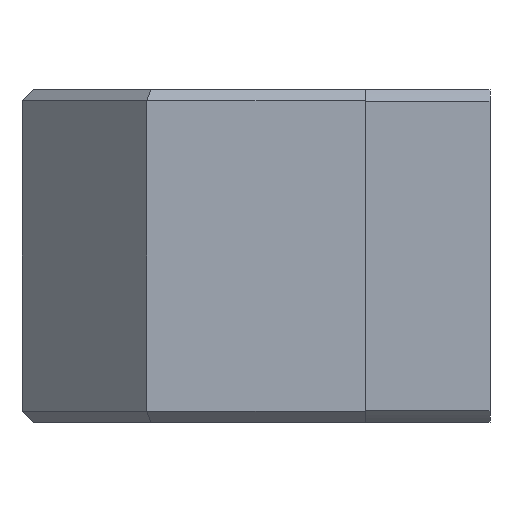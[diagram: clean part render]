
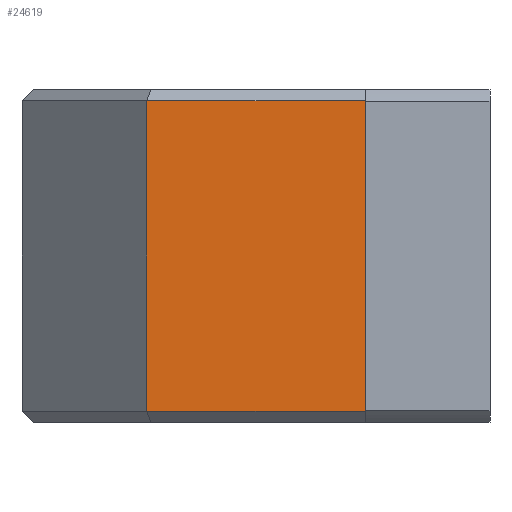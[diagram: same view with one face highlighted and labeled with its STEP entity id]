
A CAD part, front view. The second image highlights one B-rep face of the part: STEP entity #24619.
In plain terms, the highlighted planar face has unit normal (0, -1, 0).
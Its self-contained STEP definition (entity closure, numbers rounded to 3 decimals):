
#1999 = FACE_OUTER_BOUND ( 'NONE', #10801, .T. ) ;
#3619 = CARTESIAN_POINT ( 'NONE',  ( 45., 0., 4. ) ) ;
#5099 = VERTEX_POINT ( 'NONE', #23437 ) ;
#5185 = DIRECTION ( 'NONE',  ( -1., 0., 0. ) ) ;
#5966 = ORIENTED_EDGE ( 'NONE', *, *, #11289, .T. ) ;
#8881 = CARTESIAN_POINT ( 'NONE',  ( 124., 0., 116. ) ) ;
#9101 = EDGE_CURVE ( 'NONE', #19075, #5099, #17270, .T. ) ;
#9319 = DIRECTION ( 'NONE',  ( -1., 0., 0. ) ) ;
#9367 = VERTEX_POINT ( 'NONE', #3619 ) ;
#10801 = EDGE_LOOP ( 'NONE', ( #11817, #5966, #21930, #30226 ) ) ;
#11289 = EDGE_CURVE ( 'NONE', #24744, #19075, #13257, .T. ) ;
#11817 = ORIENTED_EDGE ( 'NONE', *, *, #28211, .F. ) ;
#12091 = VECTOR ( 'NONE', #29361, 1000. ) ;
#12520 = CARTESIAN_POINT ( 'NONE',  ( 0., 0., 4. ) ) ;
#13257 = LINE ( 'NONE', #29144, #12091 ) ;
#16804 = LINE ( 'NONE', #22340, #22146 ) ;
#17270 = LINE ( 'NONE', #21665, #23053 ) ;
#17308 = DIRECTION ( 'NONE',  ( 0., 0., 1. ) ) ;
#18575 = DIRECTION ( 'NONE',  ( 0., 0., 1. ) ) ;
#18802 = VECTOR ( 'NONE', #5185, 1000. ) ;
#19075 = VERTEX_POINT ( 'NONE', #8881 ) ;
#20173 = EDGE_CURVE ( 'NONE', #9367, #5099, #16804, .T. ) ;
#21665 = CARTESIAN_POINT ( 'NONE',  ( 0., 0., 116. ) ) ;
#21930 = ORIENTED_EDGE ( 'NONE', *, *, #9101, .T. ) ;
#22146 = VECTOR ( 'NONE', #17308, 1000. ) ;
#22241 = LINE ( 'NONE', #12520, #18802 ) ;
#22340 = CARTESIAN_POINT ( 'NONE',  ( 45., 0., 120. ) ) ;
#22688 = AXIS2_PLACEMENT_3D ( 'NONE', #30675, #28202, #18575 ) ;
#23053 = VECTOR ( 'NONE', #9319, 1000. ) ;
#23437 = CARTESIAN_POINT ( 'NONE',  ( 45., 0., 116. ) ) ;
#23720 = CARTESIAN_POINT ( 'NONE',  ( 124., 0., 4. ) ) ;
#24619 = ADVANCED_FACE ( 'NONE', ( #1999 ), #30382, .F. ) ;
#24744 = VERTEX_POINT ( 'NONE', #23720 ) ;
#28202 = DIRECTION ( 'NONE',  ( 0., 1., 0. ) ) ;
#28211 = EDGE_CURVE ( 'NONE', #24744, #9367, #22241, .T. ) ;
#29144 = CARTESIAN_POINT ( 'NONE',  ( 124., 0., 0. ) ) ;
#29361 = DIRECTION ( 'NONE',  ( 0., 0., 1. ) ) ;
#30226 = ORIENTED_EDGE ( 'NONE', *, *, #20173, .F. ) ;
#30382 = PLANE ( 'NONE',  #22688 ) ;
#30675 = CARTESIAN_POINT ( 'NONE',  ( 0., 0., 120. ) ) ;
